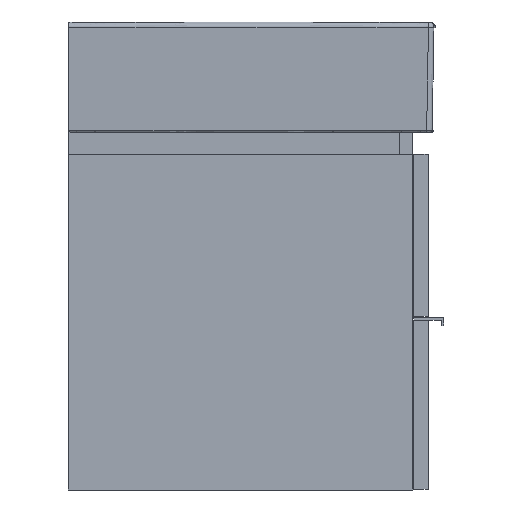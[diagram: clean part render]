
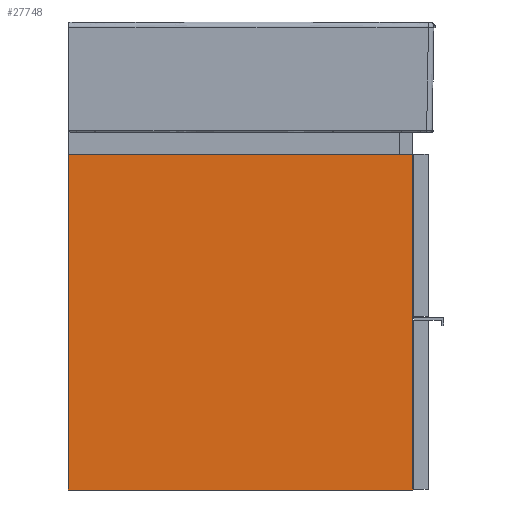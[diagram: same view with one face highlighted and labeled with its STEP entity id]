
A CAD part, left-side view. The second image highlights one B-rep face of the part: STEP entity #27748.
In plain terms, the highlighted planar face has unit normal (-1, 0, 0).
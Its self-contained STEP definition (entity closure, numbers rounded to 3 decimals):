
#2511=LINE('',#87569,#4923);
#2514=LINE('',#87575,#4926);
#2518=LINE('',#87583,#4930);
#2519=LINE('',#87585,#4931);
#4923=VECTOR('',#35892,425.);
#4926=VECTOR('',#35897,435.5);
#4930=VECTOR('',#35905,425.);
#4931=VECTOR('',#35908,435.5);
#7652=FACE_OUTER_BOUND('',#9065,.T.);
#9065=EDGE_LOOP('',(#21652,#21653,#21654,#21655));
#13526=VERTEX_POINT('',#87562);
#13529=VERTEX_POINT('',#87567);
#13531=VERTEX_POINT('',#87573);
#13533=VERTEX_POINT('',#87581);
#17171=EDGE_CURVE('',#13529,#13526,#2511,.T.);
#17174=EDGE_CURVE('',#13529,#13531,#2514,.T.);
#17178=EDGE_CURVE('',#13531,#13533,#2518,.T.);
#17179=EDGE_CURVE('',#13533,#13526,#2519,.T.);
#21652=ORIENTED_EDGE('',*,*,#17171,.F.);
#21653=ORIENTED_EDGE('',*,*,#17174,.T.);
#21654=ORIENTED_EDGE('',*,*,#17178,.T.);
#21655=ORIENTED_EDGE('',*,*,#17179,.T.);
#26583=PLANE('',#31506);
#27748=ADVANCED_FACE('',(#7652),#26583,.T.);
#31506=AXIS2_PLACEMENT_3D('',#87586,#35909,#35910);
#35892=DIRECTION('',(0.,0.,1.));
#35897=DIRECTION('',(0.,-1.,0.));
#35905=DIRECTION('',(0.,0.,1.));
#35908=DIRECTION('',(0.,1.,0.));
#35909=DIRECTION('center_axis',(-1.,0.,0.));
#35910=DIRECTION('ref_axis',(0.,0.,1.));
#87562=CARTESIAN_POINT('',(3989.096,1307.198,198.5));
#87567=CARTESIAN_POINT('',(3989.096,1307.198,-226.5));
#87569=CARTESIAN_POINT('',(3989.096,1307.198,-226.5));
#87573=CARTESIAN_POINT('',(3989.096,871.698,-226.5));
#87575=CARTESIAN_POINT('',(3989.096,1307.198,-226.5));
#87581=CARTESIAN_POINT('',(3989.096,871.698,198.5));
#87583=CARTESIAN_POINT('',(3989.096,871.698,-226.5));
#87585=CARTESIAN_POINT('',(3989.096,871.698,198.5));
#87586=CARTESIAN_POINT('Origin',(3989.096,972.698,-226.5));
